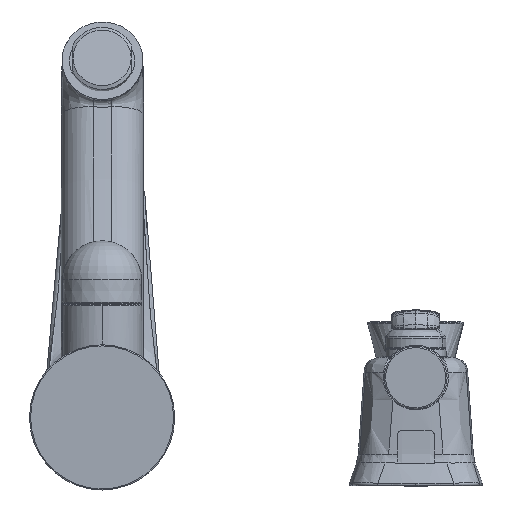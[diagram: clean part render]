
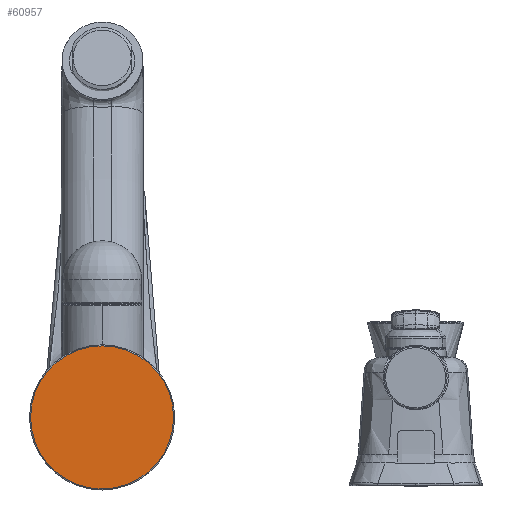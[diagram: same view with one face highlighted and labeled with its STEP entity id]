
A CAD part, front view. The second image highlights one B-rep face of the part: STEP entity #60957.
In plain terms, the highlighted planar face has unit normal (0, -1, 0).
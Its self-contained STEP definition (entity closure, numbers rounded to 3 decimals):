
#423 = CARTESIAN_POINT ( 'NONE',  ( 211.629, 609.339, 689.047 ) ) ;
#2319 = ORIENTED_EDGE ( 'NONE', *, *, #31851, .T. ) ;
#5464 = CARTESIAN_POINT ( 'NONE',  ( 158.706, 609.339, 689.047 ) ) ;
#7877 = CARTESIAN_POINT ( 'NONE',  ( 161.168, 609.339, 689.047 ) ) ;
#8374 = AXIS2_PLACEMENT_3D ( 'NONE', #10518, #24617, #53385 ) ;
#10518 = CARTESIAN_POINT ( 'NONE',  ( 185.168, 609.339, 689.047 ) ) ;
#14646 = AXIS2_PLACEMENT_3D ( 'NONE', #35679, #50690, #57586 ) ;
#15391 = DIRECTION ( 'NONE',  ( 0., -1., 0. ) ) ;
#16331 = DIRECTION ( 'NONE',  ( 0., 0., 1. ) ) ;
#19871 = EDGE_LOOP ( 'NONE', ( #2319, #31799 ) ) ;
#24617 = DIRECTION ( 'NONE',  ( 0., -1., 0. ) ) ;
#31799 = ORIENTED_EDGE ( 'NONE', *, *, #75761, .T. ) ;
#31851 = EDGE_CURVE ( 'NONE', #68252, #69442, #39838, .T. ) ;
#35127 = PLANE ( 'NONE',  #77235 ) ;
#35679 = CARTESIAN_POINT ( 'NONE',  ( 185.168, 609.339, 689.047 ) ) ;
#39838 = CIRCLE ( 'NONE', #8374, 26.461 ) ;
#50690 = DIRECTION ( 'NONE',  ( 0., -1., 0. ) ) ;
#53385 = DIRECTION ( 'NONE',  ( -1., 0., 0. ) ) ;
#57586 = DIRECTION ( 'NONE',  ( -1., 0., 0. ) ) ;
#60957 = ADVANCED_FACE ( 'NONE', ( #77417 ), #35127, .T. ) ;
#68252 = VERTEX_POINT ( 'NONE', #5464 ) ;
#69442 = VERTEX_POINT ( 'NONE', #423 ) ;
#75761 = EDGE_CURVE ( 'NONE', #69442, #68252, #81733, .T. ) ;
#77235 = AXIS2_PLACEMENT_3D ( 'NONE', #7877, #15391, #16331 ) ;
#77417 = FACE_OUTER_BOUND ( 'NONE', #19871, .T. ) ;
#81733 = CIRCLE ( 'NONE', #14646, 26.461 ) ;
